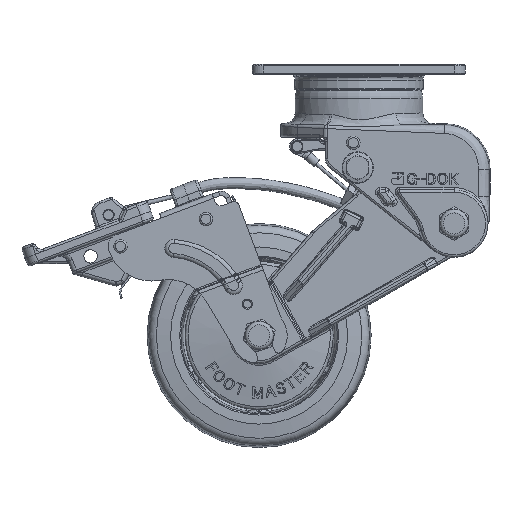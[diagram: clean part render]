
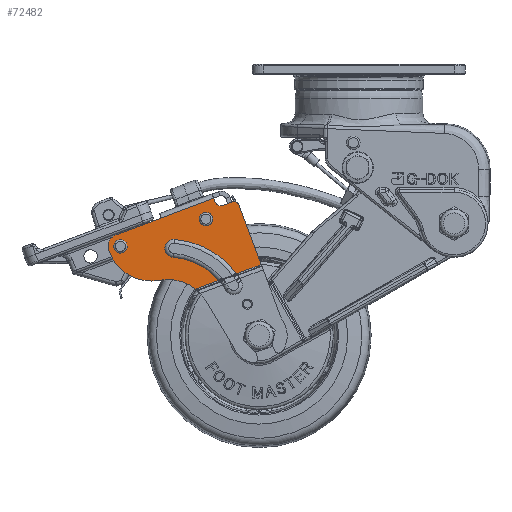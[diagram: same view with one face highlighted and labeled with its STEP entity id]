
A CAD part, front view. The second image highlights one B-rep face of the part: STEP entity #72482.
In plain terms, the highlighted planar face has unit normal (0, -1, 0).
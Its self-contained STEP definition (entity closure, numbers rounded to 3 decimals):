
#3687=CIRCLE('',#77748,2.25);
#3698=CIRCLE('',#77763,38.);
#3699=CIRCLE('',#77764,38.);
#3700=CIRCLE('',#77765,2.);
#3701=CIRCLE('',#77766,3.);
#3702=CIRCLE('',#77767,5.5);
#3703=CIRCLE('',#77768,20.);
#3704=CIRCLE('',#77769,20.);
#3705=CIRCLE('',#77770,30.);
#3706=CIRCLE('',#77771,4.);
#3707=CIRCLE('',#77772,2.25);
#6173=FACE_BOUND('',#14985,.T.);
#6174=FACE_BOUND('',#14986,.T.);
#10633=FACE_OUTER_BOUND('',#14984,.T.);
#14984=EDGE_LOOP('',(#50297,#50298,#50299,#50300,#50301,#50302,#50303,#50304,
#50305,#50306,#50307,#50308,#50309,#50310,#50311,#50312,#50313));
#14985=EDGE_LOOP('',(#50314));
#14986=EDGE_LOOP('',(#50315));
#19463=LINE('',#126672,#23896);
#19464=LINE('',#126674,#23897);
#19465=LINE('',#126678,#23898);
#19466=LINE('',#126682,#23899);
#19467=LINE('',#126684,#23900);
#19468=LINE('',#126686,#23901);
#19469=LINE('',#126690,#23902);
#19470=LINE('',#126696,#23903);
#23896=VECTOR('',#88475,10.);
#23897=VECTOR('',#88476,8.587);
#23898=VECTOR('',#88479,4.474);
#23899=VECTOR('',#88482,3.5);
#23900=VECTOR('',#88483,10.);
#23901=VECTOR('',#88484,21.526);
#23902=VECTOR('',#88487,10.);
#23903=VECTOR('',#88492,10.);
#29038=VERTEX_POINT('',#126623);
#29057=VERTEX_POINT('',#126666);
#29058=VERTEX_POINT('',#126667);
#29059=VERTEX_POINT('',#126669);
#29060=VERTEX_POINT('',#126671);
#29061=VERTEX_POINT('',#126673);
#29062=VERTEX_POINT('',#126675);
#29063=VERTEX_POINT('',#126677);
#29064=VERTEX_POINT('',#126679);
#29065=VERTEX_POINT('',#126681);
#29066=VERTEX_POINT('',#126683);
#29067=VERTEX_POINT('',#126685);
#29068=VERTEX_POINT('',#126687);
#29069=VERTEX_POINT('',#126689);
#29070=VERTEX_POINT('',#126691);
#29071=VERTEX_POINT('',#126693);
#29072=VERTEX_POINT('',#126695);
#29073=VERTEX_POINT('',#126697);
#29074=VERTEX_POINT('',#126700);
#36788=EDGE_CURVE('',#29038,#29038,#3687,.T.);
#36807=EDGE_CURVE('',#29057,#29058,#3698,.T.);
#36808=EDGE_CURVE('',#29058,#29059,#3699,.T.);
#36809=EDGE_CURVE('',#29059,#29060,#19463,.T.);
#36810=EDGE_CURVE('',#29061,#29060,#19464,.T.);
#36811=EDGE_CURVE('',#29062,#29061,#3700,.T.);
#36812=EDGE_CURVE('',#29063,#29062,#19465,.T.);
#36813=EDGE_CURVE('',#29064,#29063,#3701,.T.);
#36814=EDGE_CURVE('',#29065,#29064,#19466,.T.);
#36815=EDGE_CURVE('',#29066,#29065,#19467,.T.);
#36816=EDGE_CURVE('',#29067,#29066,#19468,.T.);
#36817=EDGE_CURVE('',#29068,#29067,#3702,.T.);
#36818=EDGE_CURVE('',#29069,#29068,#19469,.T.);
#36819=EDGE_CURVE('',#29070,#29069,#3703,.T.);
#36820=EDGE_CURVE('',#29070,#29071,#3704,.T.);
#36821=EDGE_CURVE('',#29071,#29072,#19470,.T.);
#36822=EDGE_CURVE('',#29072,#29073,#3705,.T.);
#36823=EDGE_CURVE('',#29073,#29057,#3706,.T.);
#36824=EDGE_CURVE('',#29074,#29074,#3707,.T.);
#50297=ORIENTED_EDGE('',*,*,#36807,.T.);
#50298=ORIENTED_EDGE('',*,*,#36808,.T.);
#50299=ORIENTED_EDGE('',*,*,#36809,.T.);
#50300=ORIENTED_EDGE('',*,*,#36810,.F.);
#50301=ORIENTED_EDGE('',*,*,#36811,.F.);
#50302=ORIENTED_EDGE('',*,*,#36812,.F.);
#50303=ORIENTED_EDGE('',*,*,#36813,.F.);
#50304=ORIENTED_EDGE('',*,*,#36814,.F.);
#50305=ORIENTED_EDGE('',*,*,#36815,.F.);
#50306=ORIENTED_EDGE('',*,*,#36816,.F.);
#50307=ORIENTED_EDGE('',*,*,#36817,.F.);
#50308=ORIENTED_EDGE('',*,*,#36818,.F.);
#50309=ORIENTED_EDGE('',*,*,#36819,.F.);
#50310=ORIENTED_EDGE('',*,*,#36820,.T.);
#50311=ORIENTED_EDGE('',*,*,#36821,.T.);
#50312=ORIENTED_EDGE('',*,*,#36822,.T.);
#50313=ORIENTED_EDGE('',*,*,#36823,.T.);
#50314=ORIENTED_EDGE('',*,*,#36824,.F.);
#50315=ORIENTED_EDGE('',*,*,#36788,.F.);
#65811=PLANE('',#77762);
#72482=ADVANCED_FACE('',(#10633,#6173,#6174),#65811,.F.);
#77748=AXIS2_PLACEMENT_3D('',#126625,#88433,#88434);
#77762=AXIS2_PLACEMENT_3D('',#126665,#88469,#88470);
#77763=AXIS2_PLACEMENT_3D('',#126668,#88471,#88472);
#77764=AXIS2_PLACEMENT_3D('',#126670,#88473,#88474);
#77765=AXIS2_PLACEMENT_3D('',#126676,#88477,#88478);
#77766=AXIS2_PLACEMENT_3D('',#126680,#88480,#88481);
#77767=AXIS2_PLACEMENT_3D('',#126688,#88485,#88486);
#77768=AXIS2_PLACEMENT_3D('',#126692,#88488,#88489);
#77769=AXIS2_PLACEMENT_3D('',#126694,#88490,#88491);
#77770=AXIS2_PLACEMENT_3D('',#126698,#88493,#88494);
#77771=AXIS2_PLACEMENT_3D('',#126699,#88495,#88496);
#77772=AXIS2_PLACEMENT_3D('',#126701,#88497,#88498);
#88433=DIRECTION('center_axis',(0.,-1.,0.));
#88434=DIRECTION('ref_axis',(0.,0.,-1.));
#88469=DIRECTION('center_axis',(0.,1.,0.));
#88470=DIRECTION('ref_axis',(-0.936,0.,-0.351));
#88471=DIRECTION('center_axis',(0.,1.,0.));
#88472=DIRECTION('ref_axis',(0.861,0.,0.508));
#88473=DIRECTION('center_axis',(0.,1.,0.));
#88474=DIRECTION('ref_axis',(0.861,0.,0.508));
#88475=DIRECTION('',(0.936,0.,0.351));
#88476=DIRECTION('',(0.351,0.,-0.936));
#88477=DIRECTION('center_axis',(0.,1.,0.));
#88478=DIRECTION('ref_axis',(0.936,0.,0.351));
#88479=DIRECTION('',(0.936,0.,0.351));
#88480=DIRECTION('center_axis',(0.,-1.,0.));
#88481=DIRECTION('ref_axis',(0.936,0.,0.351));
#88482=DIRECTION('',(0.351,0.,-0.936));
#88483=DIRECTION('',(0.936,0.,0.351));
#88484=DIRECTION('',(0.936,0.,0.351));
#88485=DIRECTION('center_axis',(0.,1.,0.));
#88486=DIRECTION('ref_axis',(0.936,0.,0.351));
#88487=DIRECTION('',(-0.351,0.,0.936));
#88488=DIRECTION('center_axis',(0.,1.,0.));
#88489=DIRECTION('ref_axis',(0.936,0.,0.351));
#88490=DIRECTION('center_axis',(0.,1.,0.));
#88491=DIRECTION('ref_axis',(0.861,0.,0.508));
#88492=DIRECTION('',(0.936,0.,0.351));
#88493=DIRECTION('center_axis',(0.,-1.,0.));
#88494=DIRECTION('ref_axis',(-0.861,0.,-0.508));
#88495=DIRECTION('center_axis',(0.,1.,0.));
#88496=DIRECTION('ref_axis',(0.078,0.,0.997));
#88497=DIRECTION('center_axis',(0.,-1.,0.));
#88498=DIRECTION('ref_axis',(0.,0.,-1.));
#126623=CARTESIAN_POINT('',(-105.644,-26.,-83.31));
#126625=CARTESIAN_POINT('Origin',(-106.434,-26.,-81.203));
#126665=CARTESIAN_POINT('Origin',(-84.175,-26.,-39.473));
#126666=CARTESIAN_POINT('',(-82.283,-26.,-78.086));
#126667=CARTESIAN_POINT('',(-54.916,-26.,-93.056));
#126668=CARTESIAN_POINT('Origin',(-85.229,-26.,-115.972));
#126669=CARTESIAN_POINT('',(-54.609,-26.,-93.468));
#126670=CARTESIAN_POINT('Origin',(-85.229,-26.,-115.972));
#126671=CARTESIAN_POINT('',(-43.579,-26.,-89.332));
#126672=CARTESIAN_POINT('',(-43.579,-26.,-89.332));
#126673=CARTESIAN_POINT('',(-53.648,-26.,-62.479));
#126674=CARTESIAN_POINT('',(-53.648,-26.,-62.479));
#126675=CARTESIAN_POINT('',(-56.223,-26.,-61.308));
#126676=CARTESIAN_POINT('Origin',(-55.52,-26.,-63.181));
#126677=CARTESIAN_POINT('',(-60.412,-26.,-62.879));
#126678=CARTESIAN_POINT('',(-60.412,-26.,-62.879));
#126679=CARTESIAN_POINT('',(-64.274,-26.,-61.123));
#126680=CARTESIAN_POINT('Origin',(-61.465,-26.,-60.07));
#126681=CARTESIAN_POINT('',(-64.8,-26.,-59.719));
#126682=CARTESIAN_POINT('',(-65.503,-26.,-57.846));
#126683=CARTESIAN_POINT('',(-88.209,-26.,-68.496));
#126684=CARTESIAN_POINT('',(-85.654,-26.,-67.538));
#126685=CARTESIAN_POINT('',(-108.365,-26.,-76.053));
#126686=CARTESIAN_POINT('',(-108.365,-26.,-76.053));
#126687=CARTESIAN_POINT('',(-111.584,-26.,-83.134));
#126688=CARTESIAN_POINT('Origin',(-106.434,-26.,-81.203));
#126689=CARTESIAN_POINT('',(-111.376,-26.,-83.688));
#126690=CARTESIAN_POINT('',(-108.073,-26.,-92.498));
#126691=CARTESIAN_POINT('',(-88.939,-26.,-96.319));
#126692=CARTESIAN_POINT('Origin',(-92.649,-26.,-76.666));
#126693=CARTESIAN_POINT('',(-72.812,-26.,-100.293));
#126694=CARTESIAN_POINT('Origin',(-85.229,-26.,-115.972));
#126695=CARTESIAN_POINT('',(-62.477,-26.,-96.418));
#126696=CARTESIAN_POINT('',(-43.579,-26.,-89.332));
#126697=CARTESIAN_POINT('',(-82.903,-26.,-86.062));
#126698=CARTESIAN_POINT('Origin',(-85.229,-26.,-115.972));
#126699=CARTESIAN_POINT('Origin',(-82.593,-26.,-82.074));
#126700=CARTESIAN_POINT('',(-67.484,-26.,-71.152));
#126701=CARTESIAN_POINT('Origin',(-68.273,-26.,-69.045));
